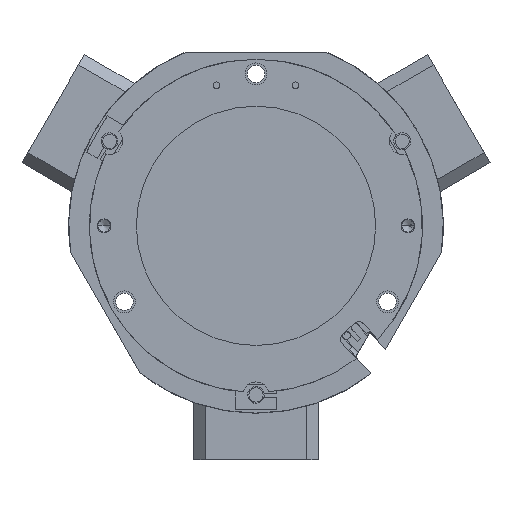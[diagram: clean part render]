
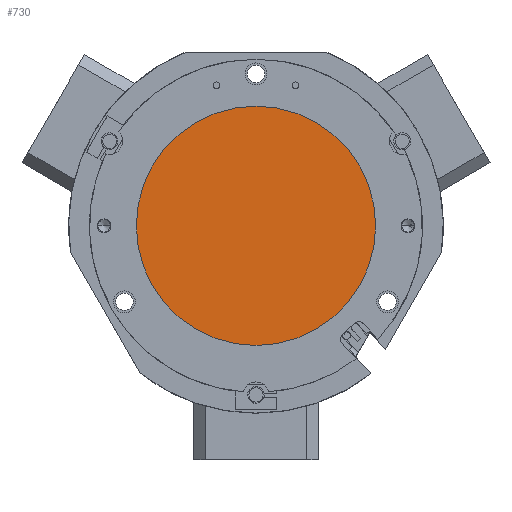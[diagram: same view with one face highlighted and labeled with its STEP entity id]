
A CAD part, front view. The second image highlights one B-rep face of the part: STEP entity #730.
In plain terms, the highlighted planar face has unit normal (0, -1, 0) as drawn and (0, 1, 0) by its records, which use the part's own axes.
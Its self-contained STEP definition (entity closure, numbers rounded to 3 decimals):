
#479 = DIRECTION ( 'NONE',  ( 0., 1., 0. ) ) ;
#583 = FACE_OUTER_BOUND ( 'NONE', #1433, .T. ) ;
#730 = ADVANCED_FACE ( 'NONE', ( #583 ), #14651, .T. ) ;
#1433 = EDGE_LOOP ( 'NONE', ( #12659, #5063 ) ) ;
#1878 = AXIS2_PLACEMENT_3D ( 'NONE', #2062, #11286, #3356 ) ;
#2062 = CARTESIAN_POINT ( 'NONE',  ( 0., 6.2, 0. ) ) ;
#3356 = DIRECTION ( 'NONE',  ( 0., 0., -1. ) ) ;
#3822 = VERTEX_POINT ( 'NONE', #16820 ) ;
#4096 = CIRCLE ( 'NONE', #14650, 57.5 ) ;
#5063 = ORIENTED_EDGE ( 'NONE', *, *, #5289, .T. ) ;
#5289 = EDGE_CURVE ( 'NONE', #6906, #3822, #4096, .T. ) ;
#5415 = DIRECTION ( 'NONE',  ( 0., 1., 0. ) ) ;
#6455 = CIRCLE ( 'NONE', #1878, 57.5 ) ;
#6906 = VERTEX_POINT ( 'NONE', #8090 ) ;
#8052 = CARTESIAN_POINT ( 'NONE',  ( 0., 6.2, 0. ) ) ;
#8090 = CARTESIAN_POINT ( 'NONE',  ( 0., 6.2, 57.5 ) ) ;
#8241 = CARTESIAN_POINT ( 'NONE',  ( 0., 6.2, 0. ) ) ;
#9591 = DIRECTION ( 'NONE',  ( 0., 0., -1. ) ) ;
#11286 = DIRECTION ( 'NONE',  ( 0., 1., 0. ) ) ;
#12659 = ORIENTED_EDGE ( 'NONE', *, *, #16975, .T. ) ;
#13349 = DIRECTION ( 'NONE',  ( 0., 0., 1. ) ) ;
#14650 = AXIS2_PLACEMENT_3D ( 'NONE', #8241, #479, #9591 ) ;
#14651 = PLANE ( 'NONE',  #16993 ) ;
#16820 = CARTESIAN_POINT ( 'NONE',  ( 0., 6.2, -57.5 ) ) ;
#16975 = EDGE_CURVE ( 'NONE', #3822, #6906, #6455, .T. ) ;
#16993 = AXIS2_PLACEMENT_3D ( 'NONE', #8052, #5415, #13349 ) ;
